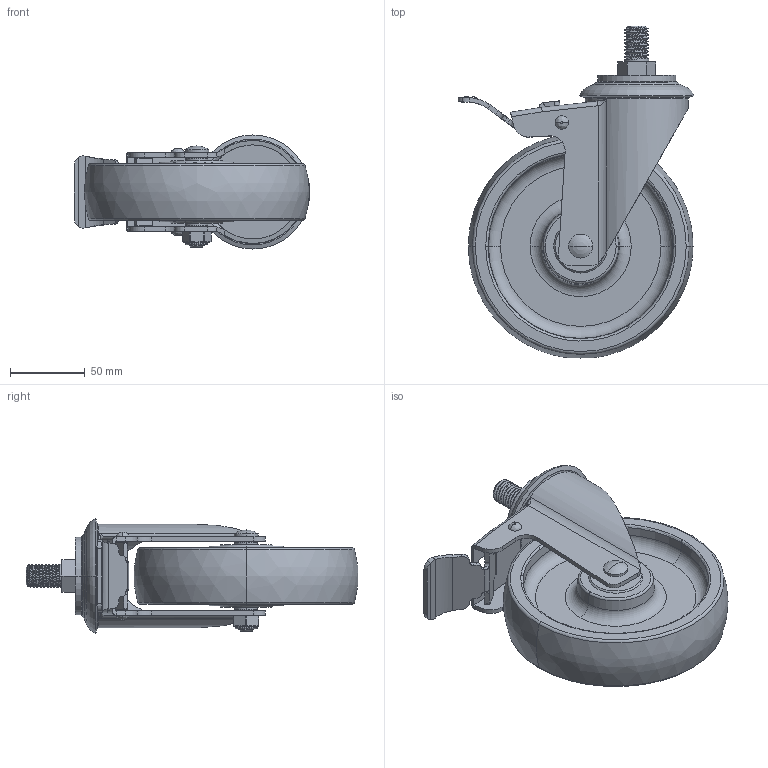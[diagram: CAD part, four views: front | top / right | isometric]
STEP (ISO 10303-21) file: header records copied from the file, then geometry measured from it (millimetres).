
FILE_DESCRIPTION((''),'2;1');
FILE_NAME('64146L-646-06_ASM','2021-03-25T',('lenovo'),(''),'PRO/ENGINEER BY PARAMETRIC TECHNOLOGY CORPORATION, 2010280','PRO/ENGINEER BY PARAMETRIC TECHNOLOGY CORPORATION, 2010280','');
FILE_SCHEMA(('CONFIG_CONTROL_DESIGN'));
Length unit declared in the file: millimetre
Products named in the file (7): 6410-53; 646-12; 646-806; 630-33A; 630-34; 640-14; 64146L-646-06_ASM
Assembly tree (6 placements, depth 2):
  64146L-646-06_ASM
    6410-53
    646-12
    646-806
    630-33A
    630-34
    640-14
Bounding box: 157.35 x 221.7 x 76.26 mm (x, y, z)
Volume: 508883.3 mm3; surface area: 128336 mm2
Topology: 6 solids, 8 shells, 325 faces, 785 edges, 485 vertices
Faces by surface type: plane 119, cylinder 108, cone 36, torus 32, bspline 28, sphere 2
Entity records: 12882 total; most frequent: CARTESIAN_POINT 5253, DIRECTION 1577, ORIENTED_EDGE 1540, EDGE_CURVE 783, AXIS2_PLACEMENT_3D 606, VERTEX_POINT 485, VECTOR 365, LINE 365
